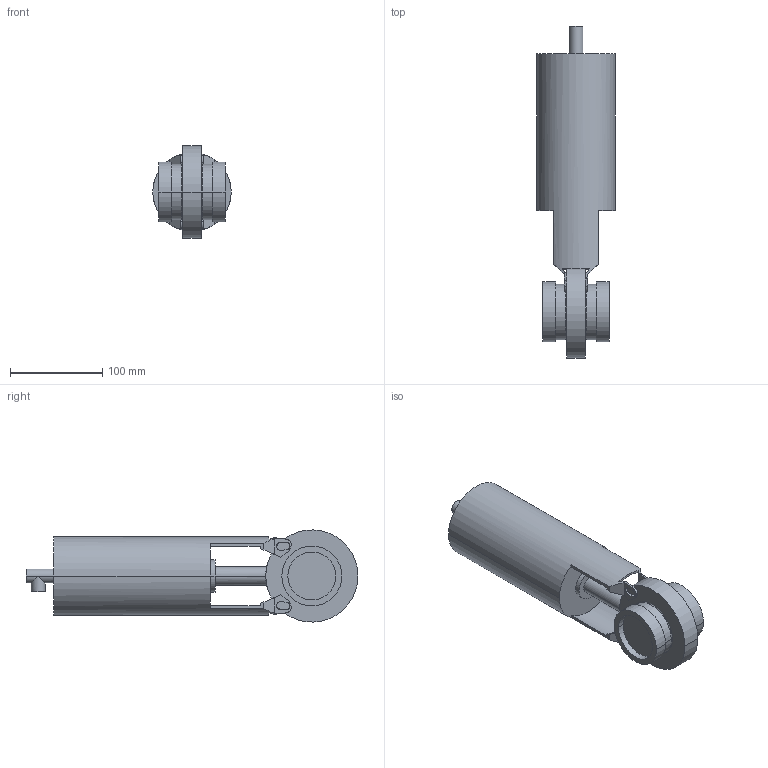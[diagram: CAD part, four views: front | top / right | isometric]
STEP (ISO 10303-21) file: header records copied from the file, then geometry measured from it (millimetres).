
FILE_DESCRIPTION(('Creo Elements/Direct Modeling STEP Export'),'2;1');
FILE_NAME('SV1-40-FZ-12G.stp','2014-07-18T14:12:17',(''),(''),'Creo Elements/Direct Modeling STEP processor for AP214 (Solid Model)','Creo Elements/Direct Modeling 17.0D 15-Jul-2011 (C) Parametric Technology GmbH','');
FILE_SCHEMA(('AUTOMOTIVE_DESIGN { 1 0 10303 214 1 1 1 1 }'));
Length unit declared in the file: millimetre
Products named in the file (2): SV1-40-FZ-12G
Assembly tree (1 placements, depth 2):
  SV1-40-FZ-12G
    SV1-40-FZ-12G
Bounding box: 85 x 359.93 x 99.92 mm (x, y, z)
Volume: 1302068.6 mm3; surface area: 115004.9 mm2
Topology: 1 solids, 1 shells, 120 faces, 335 edges, 214 vertices
Faces by surface type: plane 77, cylinder 39, torus 4
Entity records: 4240 total; most frequent: CARTESIAN_POINT 1173, ORIENTED_EDGE 670, DIRECTION 611, EDGE_CURVE 335, VERTEX_POINT 214, AXIS2_PLACEMENT_3D 209, VECTOR 193, LINE 193
